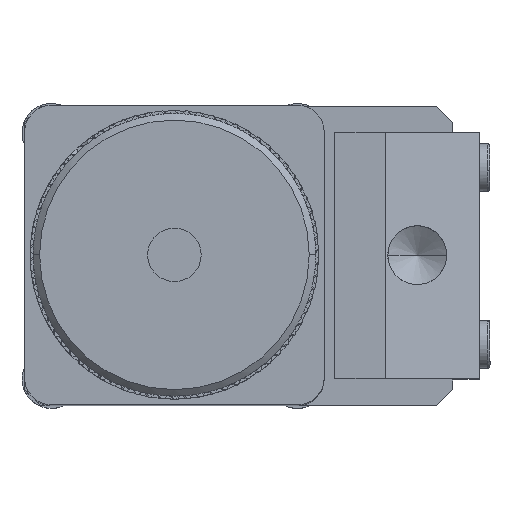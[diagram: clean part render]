
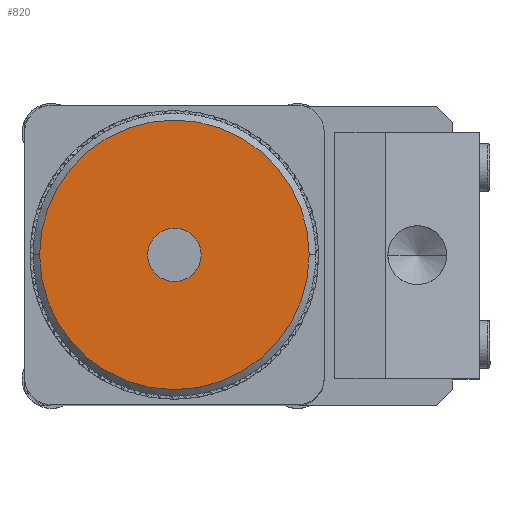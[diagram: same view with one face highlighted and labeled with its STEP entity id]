
A CAD part, top view. The second image highlights one B-rep face of the part: STEP entity #820.
In plain terms, the highlighted planar face has unit normal (0, 0, 1).
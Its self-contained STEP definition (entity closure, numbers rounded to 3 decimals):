
#690 = VERTEX_POINT ( 'NONE', #10729 ) ;
#733 = EDGE_CURVE ( 'NONE', #690, #734, #10895, .T. ) ;
#734 = VERTEX_POINT ( 'NONE', #10891 ) ;
#753 = EDGE_CURVE ( 'NONE', #8992, #8991, #10930, .T. ) ;
#755 = EDGE_LOOP ( 'NONE', ( #757, #759 ) ) ;
#757 = ORIENTED_EDGE ( 'NONE', *, *, #779, .F. ) ;
#759 = ORIENTED_EDGE ( 'NONE', *, *, #733, .F. ) ;
#779 = EDGE_CURVE ( 'NONE', #734, #690, #11000, .T. ) ;
#780 = EDGE_LOOP ( 'NONE', ( #823, #825 ) ) ;
#820 = ADVANCED_FACE ( 'NONE', ( #11075, #11074 ), #11072, .F. ) ;
#823 = ORIENTED_EDGE ( 'NONE', *, *, #8990, .F. ) ;
#825 = ORIENTED_EDGE ( 'NONE', *, *, #753, .F. ) ;
#8990 = EDGE_CURVE ( 'NONE', #8991, #8992, #17081, .T. ) ;
#8991 = VERTEX_POINT ( 'NONE', #17076 ) ;
#8992 = VERTEX_POINT ( 'NONE', #17075 ) ;
#10729 = CARTESIAN_POINT ( 'NONE',  ( 0., 2.5, 163.5 ) ) ;
#10891 = CARTESIAN_POINT ( 'NONE',  ( 0., -2.5, 163.5 ) ) ;
#10892 = DIRECTION ( 'NONE',  ( 0., -1., 0. ) ) ;
#10893 = DIRECTION ( 'NONE',  ( 0., 0., 1. ) ) ;
#10894 = AXIS2_PLACEMENT_3D ( 'NONE', #10899, #10893, #10892 ) ;
#10895 = CIRCLE ( 'NONE', #10894, 2.5 ) ;
#10899 = CARTESIAN_POINT ( 'NONE',  ( 0., 0., 163.5 ) ) ;
#10927 = AXIS2_PLACEMENT_3D ( 'NONE', #10929, #10962, #10961 ) ;
#10929 = CARTESIAN_POINT ( 'NONE',  ( 0., 0., 163.5 ) ) ;
#10930 = CIRCLE ( 'NONE', #10927, 12.6 ) ;
#10961 = DIRECTION ( 'NONE',  ( -1., 0., 0. ) ) ;
#10962 = DIRECTION ( 'NONE',  ( 0., 0., -1. ) ) ;
#10996 = DIRECTION ( 'NONE',  ( 0., -1., 0. ) ) ;
#10997 = DIRECTION ( 'NONE',  ( 0., 0., 1. ) ) ;
#10998 = CARTESIAN_POINT ( 'NONE',  ( 0., 0., 163.5 ) ) ;
#10999 = AXIS2_PLACEMENT_3D ( 'NONE', #10998, #10997, #10996 ) ;
#11000 = CIRCLE ( 'NONE', #10999, 2.5 ) ;
#11068 = DIRECTION ( 'NONE',  ( 0., 1., 0. ) ) ;
#11069 = DIRECTION ( 'NONE',  ( 0., 0., -1. ) ) ;
#11070 = CARTESIAN_POINT ( 'NONE',  ( 0., 0., 163.5 ) ) ;
#11071 = AXIS2_PLACEMENT_3D ( 'NONE', #11070, #11069, #11068 ) ;
#11072 = PLANE ( 'NONE',  #11071 ) ;
#11074 = FACE_BOUND ( 'NONE', #755, .T. ) ;
#11075 = FACE_OUTER_BOUND ( 'NONE', #780, .T. ) ;
#17075 = CARTESIAN_POINT ( 'NONE',  ( 12.6, 0., 163.5 ) ) ;
#17076 = CARTESIAN_POINT ( 'NONE',  ( -12.6, 0., 163.5 ) ) ;
#17077 = DIRECTION ( 'NONE',  ( -1., 0., 0. ) ) ;
#17078 = DIRECTION ( 'NONE',  ( 0., 0., -1. ) ) ;
#17079 = CARTESIAN_POINT ( 'NONE',  ( 0., 0., 163.5 ) ) ;
#17080 = AXIS2_PLACEMENT_3D ( 'NONE', #17079, #17078, #17077 ) ;
#17081 = CIRCLE ( 'NONE', #17080, 12.6 ) ;
